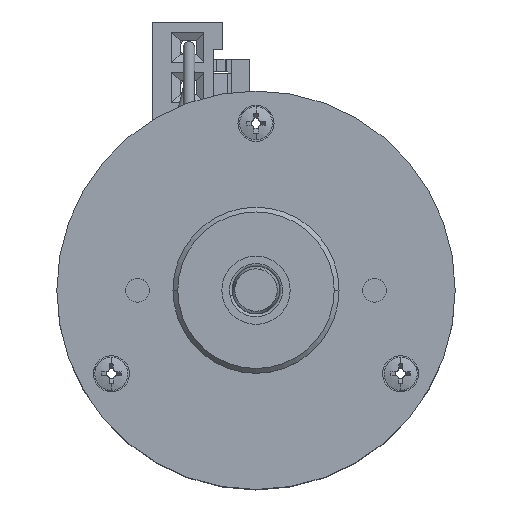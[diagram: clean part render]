
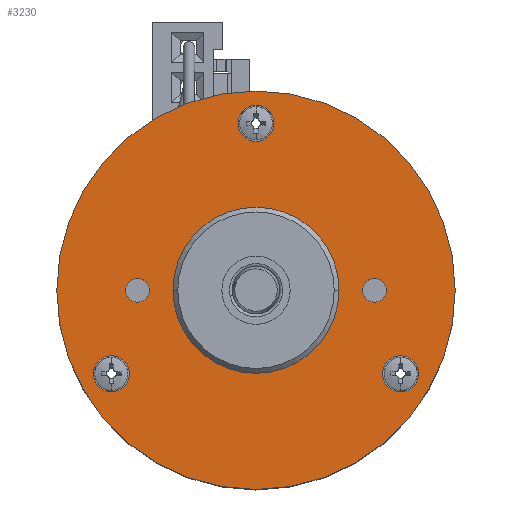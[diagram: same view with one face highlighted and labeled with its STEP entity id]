
A CAD part, top view. The second image highlights one B-rep face of the part: STEP entity #3230.
In plain terms, the highlighted planar face has unit normal (0, 0, 1).
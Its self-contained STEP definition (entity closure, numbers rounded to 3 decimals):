
#722 = ORIENTED_EDGE ( 'NONE', *, *, #2187, .F. ) ;
#723 = ORIENTED_EDGE ( 'NONE', *, *, #2183, .F. ) ;
#724 = ORIENTED_EDGE ( 'NONE', *, *, #2189, .F. ) ;
#725 = ORIENTED_EDGE ( 'NONE', *, *, #1971, .F. ) ;
#726 = ORIENTED_EDGE ( 'NONE', *, *, #2191, .F. ) ;
#727 = ORIENTED_EDGE ( 'NONE', *, *, #1975, .F. ) ;
#728 = ORIENTED_EDGE ( 'NONE', *, *, #2193, .F. ) ;
#729 = ORIENTED_EDGE ( 'NONE', *, *, #1978, .F. ) ;
#730 = ORIENTED_EDGE ( 'NONE', *, *, #2186, .F. ) ;
#731 = ORIENTED_EDGE ( 'NONE', *, *, #2175, .F. ) ;
#732 = ORIENTED_EDGE ( 'NONE', *, *, #2195, .T. ) ;
#733 = ORIENTED_EDGE ( 'NONE', *, *, #1980, .T. ) ;
#734 = ORIENTED_EDGE ( 'NONE', *, *, #2199, .F. ) ;
#735 = ORIENTED_EDGE ( 'NONE', *, *, #1986, .F. ) ;
#749 = EDGE_LOOP ( 'NONE', ( #722, #723 ) ) ;
#755 = EDGE_LOOP ( 'NONE', ( #726, #727 ) ) ;
#756 = EDGE_LOOP ( 'NONE', ( #728, #729 ) ) ;
#757 = EDGE_LOOP ( 'NONE', ( #724, #725 ) ) ;
#758 = EDGE_LOOP ( 'NONE', ( #730, #731 ) ) ;
#759 = EDGE_LOOP ( 'NONE', ( #732, #733 ) ) ;
#760 = EDGE_LOOP ( 'NONE', ( #734, #735 ) ) ;
#1971 = EDGE_CURVE ( 'NONE', #5306, #5307, #10665, .T. ) ;
#1975 = EDGE_CURVE ( 'NONE', #5310, #5311, #10667, .T. ) ;
#1978 = EDGE_CURVE ( 'NONE', #5314, #5315, #10676, .T. ) ;
#1980 = EDGE_CURVE ( 'NONE', #5312, #5313, #10675, .T. ) ;
#1986 = EDGE_CURVE ( 'NONE', #5322, #5323, #10688, .T. ) ;
#2175 = EDGE_CURVE ( 'NONE', #5298, #5299, #12267, .T. ) ;
#2183 = EDGE_CURVE ( 'NONE', #5302, #5303, #12281, .T. ) ;
#2186 = EDGE_CURVE ( 'NONE', #5299, #5298, #12285, .T. ) ;
#2187 = EDGE_CURVE ( 'NONE', #5303, #5302, #12286, .T. ) ;
#2189 = EDGE_CURVE ( 'NONE', #5307, #5306, #12288, .T. ) ;
#2191 = EDGE_CURVE ( 'NONE', #5311, #5310, #12290, .T. ) ;
#2193 = EDGE_CURVE ( 'NONE', #5315, #5314, #12292, .T. ) ;
#2195 = EDGE_CURVE ( 'NONE', #5313, #5312, #12294, .T. ) ;
#2199 = EDGE_CURVE ( 'NONE', #5323, #5322, #12298, .T. ) ;
#2581 = AXIS2_PLACEMENT_3D ( 'NONE', #11282, #11283, #11284 ) ;
#2584 = AXIS2_PLACEMENT_3D ( 'NONE', #11295, #11296, #11297 ) ;
#2586 = AXIS2_PLACEMENT_3D ( 'NONE', #11303, #11304, #11305 ) ;
#2587 = AXIS2_PLACEMENT_3D ( 'NONE', #11309, #11310, #11311 ) ;
#2590 = AXIS2_PLACEMENT_3D ( 'NONE', #11324, #11325, #11326 ) ;
#2680 = AXIS2_PLACEMENT_3D ( 'NONE', #11864, #11865, #11866 ) ;
#2684 = AXIS2_PLACEMENT_3D ( 'NONE', #11882, #11883, #11884 ) ;
#2687 = AXIS2_PLACEMENT_3D ( 'NONE', #11891, #11892, #11893 ) ;
#2688 = AXIS2_PLACEMENT_3D ( 'NONE', #11894, #11895, #11896 ) ;
#2690 = AXIS2_PLACEMENT_3D ( 'NONE', #11900, #11901, #11902 ) ;
#2692 = AXIS2_PLACEMENT_3D ( 'NONE', #11906, #11907, #11908 ) ;
#2694 = AXIS2_PLACEMENT_3D ( 'NONE', #11912, #11913, #11914 ) ;
#2696 = AXIS2_PLACEMENT_3D ( 'NONE', #11918, #11919, #11920 ) ;
#2700 = AXIS2_PLACEMENT_3D ( 'NONE', #11930, #11931, #11932 ) ;
#3230 = ADVANCED_FACE ( 'NONE', ( #12608, #12616, #12612, #12610, #12614, #12617, #12618 ), #13667, .T. ) ;
#5298 = VERTEX_POINT ( 'NONE', #14218 ) ;
#5299 = VERTEX_POINT ( 'NONE', #14219 ) ;
#5302 = VERTEX_POINT ( 'NONE', #14222 ) ;
#5303 = VERTEX_POINT ( 'NONE', #14223 ) ;
#5306 = VERTEX_POINT ( 'NONE', #14226 ) ;
#5307 = VERTEX_POINT ( 'NONE', #14227 ) ;
#5310 = VERTEX_POINT ( 'NONE', #14230 ) ;
#5311 = VERTEX_POINT ( 'NONE', #14231 ) ;
#5312 = VERTEX_POINT ( 'NONE', #14232 ) ;
#5313 = VERTEX_POINT ( 'NONE', #14233 ) ;
#5314 = VERTEX_POINT ( 'NONE', #13577 ) ;
#5315 = VERTEX_POINT ( 'NONE', #11731 ) ;
#5322 = VERTEX_POINT ( 'NONE', #14240 ) ;
#5323 = VERTEX_POINT ( 'NONE', #14241 ) ;
#10665 = CIRCLE ( 'NONE', #2581, 1.9 ) ;
#10667 = CIRCLE ( 'NONE', #2584, 1.9 ) ;
#10675 = CIRCLE ( 'NONE', #2587, 21. ) ;
#10676 = CIRCLE ( 'NONE', #2586, 1.25 ) ;
#10688 = CIRCLE ( 'NONE', #2590, 8.75 ) ;
#11282 = CARTESIAN_POINT ( 'NONE',  ( 2.746, -14.28, 5. ) ) ;
#11283 = DIRECTION ( 'NONE',  ( 0., 0., 1. ) ) ;
#11284 = DIRECTION ( 'NONE',  ( 1., 0., 0. ) ) ;
#11295 = CARTESIAN_POINT ( 'NONE',  ( -12.496, 12.12, 5. ) ) ;
#11296 = DIRECTION ( 'NONE',  ( 0., 0., 1. ) ) ;
#11297 = DIRECTION ( 'NONE',  ( 1., 0., 0. ) ) ;
#11303 = CARTESIAN_POINT ( 'NONE',  ( 0.004, -5.48, 5. ) ) ;
#11304 = DIRECTION ( 'NONE',  ( 0., 0., 1. ) ) ;
#11305 = DIRECTION ( 'NONE',  ( 1., 0., 0. ) ) ;
#11309 = CARTESIAN_POINT ( 'NONE',  ( -12.496, -5.48, 5. ) ) ;
#11310 = DIRECTION ( 'NONE',  ( 0., 0., 1. ) ) ;
#11311 = DIRECTION ( 'NONE',  ( 1., 0., 0. ) ) ;
#11324 = CARTESIAN_POINT ( 'NONE',  ( -12.496, -5.48, 5. ) ) ;
#11325 = DIRECTION ( 'NONE',  ( 0., 0., 1. ) ) ;
#11326 = DIRECTION ( 'NONE',  ( 1., 0., 0. ) ) ;
#11731 = CARTESIAN_POINT ( 'NONE',  ( 1.254, -5.48, 5. ) ) ;
#11864 = CARTESIAN_POINT ( 'NONE',  ( -24.996, -5.48, 5. ) ) ;
#11865 = DIRECTION ( 'NONE',  ( 0., 0., 1. ) ) ;
#11866 = DIRECTION ( 'NONE',  ( 1., 0., 0. ) ) ;
#11882 = CARTESIAN_POINT ( 'NONE',  ( -27.738, -14.28, 5. ) ) ;
#11883 = DIRECTION ( 'NONE',  ( 0., 0., 1. ) ) ;
#11884 = DIRECTION ( 'NONE',  ( 1., 0., 0. ) ) ;
#11891 = CARTESIAN_POINT ( 'NONE',  ( -24.996, -5.48, 5. ) ) ;
#11892 = DIRECTION ( 'NONE',  ( 0., 0., 1. ) ) ;
#11893 = DIRECTION ( 'NONE',  ( 1., 0., 0. ) ) ;
#11894 = CARTESIAN_POINT ( 'NONE',  ( -27.738, -14.28, 5. ) ) ;
#11895 = DIRECTION ( 'NONE',  ( 0., 0., 1. ) ) ;
#11896 = DIRECTION ( 'NONE',  ( 1., 0., 0. ) ) ;
#11900 = CARTESIAN_POINT ( 'NONE',  ( 2.746, -14.28, 5. ) ) ;
#11901 = DIRECTION ( 'NONE',  ( 0., 0., 1. ) ) ;
#11902 = DIRECTION ( 'NONE',  ( 1., 0., 0. ) ) ;
#11906 = CARTESIAN_POINT ( 'NONE',  ( -12.496, 12.12, 5. ) ) ;
#11907 = DIRECTION ( 'NONE',  ( 0., 0., 1. ) ) ;
#11908 = DIRECTION ( 'NONE',  ( 1., 0., 0. ) ) ;
#11912 = CARTESIAN_POINT ( 'NONE',  ( 0.004, -5.48, 5. ) ) ;
#11913 = DIRECTION ( 'NONE',  ( 0., 0., 1. ) ) ;
#11914 = DIRECTION ( 'NONE',  ( 1., 0., 0. ) ) ;
#11918 = CARTESIAN_POINT ( 'NONE',  ( -12.496, -5.48, 5. ) ) ;
#11919 = DIRECTION ( 'NONE',  ( 0., 0., 1. ) ) ;
#11920 = DIRECTION ( 'NONE',  ( 1., 0., 0. ) ) ;
#11930 = CARTESIAN_POINT ( 'NONE',  ( -12.496, -5.48, 5. ) ) ;
#11931 = DIRECTION ( 'NONE',  ( 0., 0., 1. ) ) ;
#11932 = DIRECTION ( 'NONE',  ( 1., 0., 0. ) ) ;
#12267 = CIRCLE ( 'NONE', #2680, 1.25 ) ;
#12281 = CIRCLE ( 'NONE', #2684, 1.9 ) ;
#12285 = CIRCLE ( 'NONE', #2687, 1.25 ) ;
#12286 = CIRCLE ( 'NONE', #2688, 1.9 ) ;
#12288 = CIRCLE ( 'NONE', #2690, 1.9 ) ;
#12290 = CIRCLE ( 'NONE', #2692, 1.9 ) ;
#12292 = CIRCLE ( 'NONE', #2694, 1.25 ) ;
#12294 = CIRCLE ( 'NONE', #2696, 21. ) ;
#12298 = CIRCLE ( 'NONE', #2700, 8.75 ) ;
#12608 = FACE_BOUND ( 'NONE', #749, .T. ) ;
#12610 = FACE_BOUND ( 'NONE', #756, .T. ) ;
#12612 = FACE_BOUND ( 'NONE', #755, .T. ) ;
#12614 = FACE_BOUND ( 'NONE', #758, .T. ) ;
#12616 = FACE_BOUND ( 'NONE', #757, .T. ) ;
#12617 = FACE_OUTER_BOUND ( 'NONE', #759, .T. ) ;
#12618 = FACE_BOUND ( 'NONE', #760, .T. ) ;
#13013 = AXIS2_PLACEMENT_3D ( 'NONE', #13669, #13664, #13670 ) ;
#13577 = CARTESIAN_POINT ( 'NONE',  ( -1.246, -5.48, 5. ) ) ;
#13664 = DIRECTION ( 'NONE',  ( 0., 0., 1. ) ) ;
#13667 = PLANE ( 'NONE',  #13013 ) ;
#13669 = CARTESIAN_POINT ( 'NONE',  ( -12.496, -5.48, 5. ) ) ;
#13670 = DIRECTION ( 'NONE',  ( 1., 0., 0. ) ) ;
#14218 = CARTESIAN_POINT ( 'NONE',  ( -26.246, -5.48, 5. ) ) ;
#14219 = CARTESIAN_POINT ( 'NONE',  ( -23.746, -5.48, 5. ) ) ;
#14222 = CARTESIAN_POINT ( 'NONE',  ( -29.638, -14.28, 5. ) ) ;
#14223 = CARTESIAN_POINT ( 'NONE',  ( -25.838, -14.28, 5. ) ) ;
#14226 = CARTESIAN_POINT ( 'NONE',  ( 0.846, -14.28, 5. ) ) ;
#14227 = CARTESIAN_POINT ( 'NONE',  ( 4.646, -14.28, 5. ) ) ;
#14230 = CARTESIAN_POINT ( 'NONE',  ( -14.396, 12.12, 5. ) ) ;
#14231 = CARTESIAN_POINT ( 'NONE',  ( -10.596, 12.12, 5. ) ) ;
#14232 = CARTESIAN_POINT ( 'NONE',  ( 8.504, -5.48, 5. ) ) ;
#14233 = CARTESIAN_POINT ( 'NONE',  ( -33.496, -5.48, 5. ) ) ;
#14240 = CARTESIAN_POINT ( 'NONE',  ( -3.746, -5.48, 5. ) ) ;
#14241 = CARTESIAN_POINT ( 'NONE',  ( -21.246, -5.48, 5. ) ) ;
